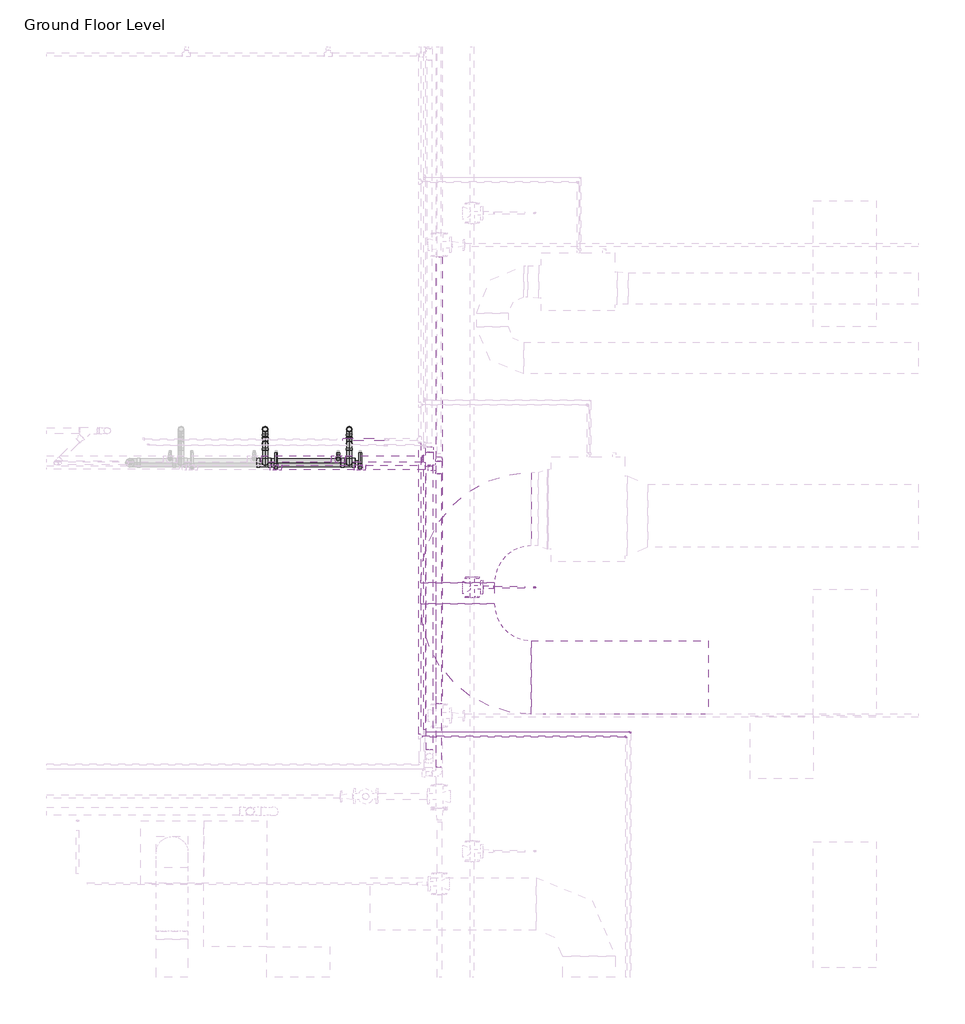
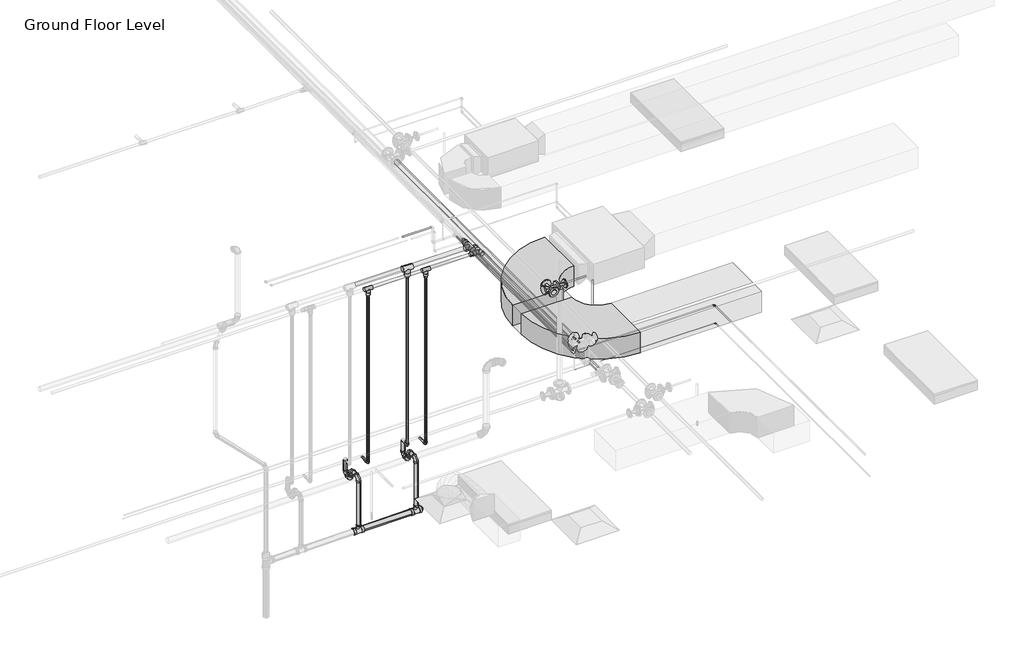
# One storey, part 17 of 74: 31 pipe segments, 29 pipe fittings, 2 duct fittings, 2 duct segments, 1 fire suppression terminal.
"""IFC4 building model written with IfcOpenShell, lengths in millimetres."""

from ifc_helpers import new_model, si_unit, point, frame, frame_2d, origin, place, context, project, spatial, polyline, circle_curve, trimmed, segment, composite_curve, outline, extrude, transform, mapped, element, save
from components import m_rectangular_elbow_radius_1_w_8a62b27e, m_sprinkler_pendent_15_mm_pendent_06fcbd8e, m_bend_pvc_sch_40_dwv_standard_1e7bdcc1, m_bend_pvc_sch_40_dwv_standard_776e50c4, m_bend_pvc_sch_40_dwv_standard_aab78995, m_elbow_generic_standard_a088f956, m_elbow_generic_standard_2a704253, m_plug_pvc_sch_40_dwv_standard_af737ab4, m_reducer_flanged_cs_class_150_standard_d42b2106, m_tee_reducing_sanitary_pvc_sch_40_dwv_standard_21d2848c, m_tee_round_base_flanged_cs_class_150_standard_7e5987a1, standard_b266ab3f, standard_08ff6011, standard_cd25fed3, standard_5079833c, standard_bbae78af, standard_a995ec02, standard_83629b21, standard_9d5ac8af, standard_77f9104c

model = new_model("IFC4")

# Units and contexts
model_context = context("Model", 3, world=origin())
ifc_project = project(units=[si_unit("LENGTHUNIT", "METRE", prefix="MILLI")], contexts=[model_context])

# Site, building, storey
site = spatial("IfcSite", under=ifc_project)
building = spatial("IfcBuilding", under=site)
storey = spatial("IfcBuildingStorey", under=building, Name="Ground Floor Level", Elevation=900.0)

# Duct fittings
placement = place(None, origin())
m_rectangular_elbow_radius_1_w_shape = m_rectangular_elbow_radius_1_w_8a62b27e(model_context)
element("IfcDuctFitting", 1, ObjectType="M_Rectangular Elbow - Radius : 1 W", at=placement, inside=storey, context=model_context, shape_type="MappedRepresentation", body=[
    mapped(m_rectangular_elbow_radius_1_w_shape, transform((5857.7672394, -33301.2726336, 4032.4375), x_axis=(-1.0, 0.0, 0.0), y_axis=(0.0, -1.0, 0.0), z_axis=(0.0, 0.0, 1.0))),
])
element("IfcDuctFitting", 2, ObjectType="M_Rectangular Elbow - Radius : 1 W", at=placement, inside=storey, context=model_context, shape_type="MappedRepresentation", body=[
    mapped(m_rectangular_elbow_radius_1_w_shape, transform((5857.7672394, -34901.2726336, 4032.4375), x_axis=(0.0, -1.0, 0.0), y_axis=(1.0, 0.0, 0.0), z_axis=(0.0, 0.0, 1.0))),
])

# Duct segments
element("IfcDuctSegment", 3, ObjectType="Radius Elbows / Taps", at=placement, inside=storey, context=model_context, shape_type="SweptSolid", body=[
    extrude(outline(polyline([(5507.7672394, -34001.2726336), (6207.7672394, -34001.2726336), (6207.7672394, -34201.2726336), (5507.7672394, -34201.2726336), (5507.7672394, -34001.2726336)])), frame((0.0, 0.0, 3882.4375), z_axis=(0.0, 0.0, 1.0), x_axis=(1.0, 0.0, 0.0)), (0.0, 0.0, 1.0), 300.0),
])
element("IfcDuctSegment", 4, ObjectType="Radius Elbows / Taps", at=placement, inside=storey, context=model_context, shape_type="SweptSolid", body=[
    extrude(outline(polyline([(6557.7672394, -35251.2726336), (6557.7672394, -34551.2726336), (8242.7672394, -34551.2726336), (8242.7672394, -35251.2726336), (6557.7672394, -35251.2726336)])), frame((0.0, 0.0, 3882.4375), z_axis=(0.0, 0.0, 1.0), x_axis=(1.0, 0.0, 0.0)), (0.0, 0.0, 1.0), 300.0),
])

# Fire suppression terminal
m_sprinkler_pendent_15_mm_pendent_shape = m_sprinkler_pendent_15_mm_pendent_06fcbd8e(model_context)
element("IfcFireSuppressionTerminal", 5, ObjectType="M_Sprinkler - Pendent : 15 mm Pendent", at=placement, inside=storey, context=model_context, shape_type="MappedRepresentation", body=[
    mapped(m_sprinkler_pendent_15_mm_pendent_shape, transform((6592.5481019, -34045.051432, 3650.0), x_axis=(1.0, 0.0, 0.0), y_axis=(0.0, 1.0, 0.0), z_axis=(0.0, 0.0, 1.0))),
])

# Pipe fittings
m_bend_pvc_sch_40_dwv_standard_shape = m_bend_pvc_sch_40_dwv_standard_1e7bdcc1(model_context)
element("IfcPipeFitting", 6, ObjectType="M_Bend - PVC - Sch 40 - DWV : Standard", at=placement, inside=storey, context=model_context, shape_type="MappedRepresentation", body=[
    mapped(m_bend_pvc_sch_40_dwv_standard_shape, transform((4826.7846789, -32541.2164355, 1350.0), x_axis=(0.0, 0.0, -1.0), y_axis=(0.0, -1.0, 0.0), z_axis=(-1.0, 0.0, 0.0))),
])
element("IfcPipeFitting", 7, ObjectType="M_Bend - PVC - Sch 40 - DWV : Standard", at=placement, inside=storey, context=model_context, shape_type="MappedRepresentation", body=[
    mapped(m_bend_pvc_sch_40_dwv_standard_shape, transform((4026.7846789, -32541.2164355, 1350.0), x_axis=(0.0, 0.0, -1.0), y_axis=(0.0, -1.0, 0.0), z_axis=(-1.0, 0.0, 0.0))),
])
element("IfcPipeFitting", 8, ObjectType="M_Bend - PVC - Sch 40 - DWV : Standard", at=placement, inside=storey, context=model_context, shape_type="MappedRepresentation", body=[
    mapped(m_bend_pvc_sch_40_dwv_standard_shape, transform((4026.7846789, -32858.7119065, 1488.4250453), x_axis=(0.0, -0.9999500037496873, -0.009999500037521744), y_axis=(0.0, 0.009999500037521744, -0.9999500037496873), z_axis=(1.0, 0.0, 0.0))),
])
m_bend_pvc_sch_40_dwv_standard_2_shape = m_bend_pvc_sch_40_dwv_standard_776e50c4(model_context)
element("IfcPipeFitting", 9, ObjectType="M_Bend - PVC - Sch 40 - DWV : Standard", at=placement, inside=storey, context=model_context, shape_type="MappedRepresentation", body=[
    mapped(m_bend_pvc_sch_40_dwv_standard_2_shape, transform((4826.7846789, -32676.2164355, 1348.45), x_axis=(0.0, -0.9999500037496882, -0.009999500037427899), y_axis=(0.0, -0.009999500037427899, 0.9999500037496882), z_axis=(-1.0, 0.0, 0.0))),
])
element("IfcPipeFitting", 10, ObjectType="M_Bend - PVC - Sch 40 - DWV : Standard", at=placement, inside=storey, context=model_context, shape_type="MappedRepresentation", body=[
    mapped(m_bend_pvc_sch_40_dwv_standard_2_shape, transform((4826.7846789, -32676.2164355, 1490.0), x_axis=(0.0, 0.0, 1.0), y_axis=(0.0, -1.0, 0.0), z_axis=(1.0, 0.0, 0.0))),
])
element("IfcPipeFitting", 11, ObjectType="M_Bend - PVC - Sch 40 - DWV : Standard", at=placement, inside=storey, context=model_context, shape_type="MappedRepresentation", body=[
    mapped(m_bend_pvc_sch_40_dwv_standard_2_shape, transform((4026.7846789, -32676.2164355, 1348.45), x_axis=(0.0, -0.9999500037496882, -0.009999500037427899), y_axis=(0.0, -0.009999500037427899, 0.9999500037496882), z_axis=(-1.0, 0.0, 0.0))),
])
element("IfcPipeFitting", 12, ObjectType="M_Bend - PVC - Sch 40 - DWV : Standard", at=placement, inside=storey, context=model_context, shape_type="MappedRepresentation", body=[
    mapped(m_bend_pvc_sch_40_dwv_standard_2_shape, transform((4026.7846789, -32676.2164355, 1490.0), x_axis=(0.0, 0.0, 1.0), y_axis=(0.0, -1.0, 0.0), z_axis=(1.0, 0.0, 0.0))),
])
m_bend_pvc_sch_40_dwv_standard_3_shape = m_bend_pvc_sch_40_dwv_standard_aab78995(model_context)
element("IfcPipeFitting", 13, ObjectType="M_Bend - PVC - Sch 40 - DWV : Standard", at=placement, inside=storey, context=model_context, shape_type="MappedRepresentation", body=[
    mapped(m_bend_pvc_sch_40_dwv_standard_3_shape, transform((4826.7846789, -32858.7119065, 1488.4250453), x_axis=(0.0, -0.999968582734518, -0.007926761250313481), y_axis=(0.0, 0.007926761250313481, -0.999968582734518), z_axis=(1.0, 0.0, 0.0))),
])
m_elbow_generic_standard_shape = m_elbow_generic_standard_a088f956(model_context)
element("IfcPipeFitting", 14, ObjectType="M_Elbow - Generic : Standard", at=placement, inside=storey, context=model_context, shape_type="MappedRepresentation", body=[
    mapped(m_elbow_generic_standard_shape, transform((7462.8951827, -35463.1206952, 4390.0), x_axis=(0.0, 1.0, 0.0), y_axis=(-1.0, 0.0, 0.0), z_axis=(0.0, 0.0, 1.0))),
])
m_elbow_generic_standard_2_shape = m_elbow_generic_standard_2a704253(model_context)
element("IfcPipeFitting", 15, ObjectType="M_Elbow - Generic : Standard", at=placement, inside=storey, context=model_context, shape_type="MappedRepresentation", body=[
    mapped(m_elbow_generic_standard_2_shape, transform((7503.9904113, -35420.6009836, 4084.9), x_axis=(0.0, 1.0, 0.0), y_axis=(-1.0, 0.0, 0.0), z_axis=(0.0, 0.0, 1.0))),
])
m_plug_pvc_sch_40_dwv_standard_shape = m_plug_pvc_sch_40_dwv_standard_af737ab4(model_context)
element("IfcPipeFitting", 16, ObjectType="M_Plug - PVC - Sch 40 - DWV : Standard", at=placement, inside=storey, context=model_context, shape_type="MappedRepresentation", body=[
    mapped(m_plug_pvc_sch_40_dwv_standard_shape, transform((4886.2674481, -32858.7119065, 723.0545203), x_axis=(0.9999500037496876, 0.0, 0.009999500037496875), y_axis=(0.009999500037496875, 0.0, -0.9999500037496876), z_axis=(0.0, 1.0, 0.0))),
])
m_reducer_flanged_cs_class_150_standard_shape = m_reducer_flanged_cs_class_150_standard_d42b2106(model_context)
element("IfcPipeFitting", 17, ObjectType="M_Reducer - Flanged - CS - Class 150 : Standard", at=placement, inside=storey, context=model_context, shape_type="MappedRepresentation", body=[
    mapped(m_reducer_flanged_cs_class_150_standard_shape, transform((6097.7664057, -34045.051432, 4290.0), x_axis=(1.0, 0.0, 0.0), y_axis=(0.0, 0.0, -1.0), z_axis=(0.0, 1.0, 0.0))),
])
m_tee_reducing_sanitary_pvc_sch_40_dwv_standard_shape = m_tee_reducing_sanitary_pvc_sch_40_dwv_standard_21d2848c(model_context)
element("IfcPipeFitting", 18, ObjectType="M_Tee Reducing Sanitary - PVC - Sch 40 - DWV : Standard", at=placement, inside=storey, context=model_context, shape_type="MappedRepresentation", body=[
    mapped(m_tee_reducing_sanitary_pvc_sch_40_dwv_standard_shape, transform((4826.7846789, -32858.7119065, 722.4596926), x_axis=(0.9999500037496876, 0.0, 0.009999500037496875), y_axis=(0.009999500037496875, 0.0, -0.9999500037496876), z_axis=(0.0, 1.0, 0.0))),
])
element("IfcPipeFitting", 19, ObjectType="M_Tee Reducing Sanitary - PVC - Sch 40 - DWV : Standard", at=placement, inside=storey, context=model_context, shape_type="MappedRepresentation", body=[
    mapped(m_tee_reducing_sanitary_pvc_sch_40_dwv_standard_shape, transform((4026.7846789, -32858.7119065, 714.4596926), x_axis=(0.9999500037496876, 0.0, 0.009999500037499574), y_axis=(0.009999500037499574, 0.0, -0.9999500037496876), z_axis=(0.0, 1.0, 0.0))),
])
m_tee_round_base_flanged_cs_class_150_standard_shape = m_tee_round_base_flanged_cs_class_150_standard_7e5987a1(model_context)
element("IfcPipeFitting", 20, ObjectType="M_Tee Round Base - Flanged - CS - Class 150 : Standard", at=placement, inside=storey, context=model_context, shape_type="MappedRepresentation", body=[
    mapped(m_tee_round_base_flanged_cs_class_150_standard_shape, transform((5997.057812, -34045.051432, 4290.0), x_axis=(0.0, 1.0, 0.0), y_axis=(-1.0, 0.0, 0.0), z_axis=(0.0, 0.0, 1.0))),
])
standard_shape = standard_b266ab3f(model_context)
element("IfcPipeFitting", 21, ObjectType="M_Elbow - CPVC - Sch 40 : Standard", at=placement, inside=storey, context=model_context, shape_type="MappedRepresentation", body=[
    mapped(standard_shape, transform((4722.4697583, -32824.9853451, 1690.0), x_axis=(0.0, 0.0, -1.0), y_axis=(0.0, 1.0, 0.0), z_axis=(1.0, 0.0, 0.0))),
])
element("IfcPipeFitting", 22, ObjectType="M_Elbow - CPVC - Sch 40 : Standard", at=placement, inside=storey, context=model_context, shape_type="MappedRepresentation", body=[
    mapped(standard_shape, transform((4931.0995995, -32905.870708, 1690.0), x_axis=(0.0, -1.0, 0.0), y_axis=(0.0, 0.0, 1.0), z_axis=(-1.0, 0.0, 0.0))),
])
element("IfcPipeFitting", 23, ObjectType="M_Elbow - CPVC - Sch 40 : Standard", at=placement, inside=storey, context=model_context, shape_type="MappedRepresentation", body=[
    mapped(standard_shape, transform((4131.0995995, -32905.870708, 1690.0), x_axis=(0.0, -1.0, 0.0), y_axis=(0.0, 0.0, 1.0), z_axis=(-1.0, 0.0, 0.0))),
])
standard_2_shape = standard_08ff6011(model_context)
element("IfcPipeFitting", 24, ObjectType="M_Tee - CPVC - Sch 40 : Standard", at=placement, inside=storey, context=model_context, shape_type="MappedRepresentation", body=[
    mapped(standard_2_shape, transform((4931.0995995, -32905.870708, 4250.0), x_axis=(1.0, 0.0, 0.0), y_axis=(0.0, 0.0, 1.0), z_axis=(0.0, -1.0, 0.0))),
])
element("IfcPipeFitting", 25, ObjectType="M_Tee - CPVC - Sch 40 : Standard", at=placement, inside=storey, context=model_context, shape_type="MappedRepresentation", body=[
    mapped(standard_2_shape, transform((4131.0995995, -32905.870708, 4250.0), x_axis=(1.0, 0.0, 0.0), y_axis=(0.0, 0.0, 1.0), z_axis=(0.0, -1.0, 0.0))),
])
standard_3_shape = standard_cd25fed3(model_context)
element("IfcPipeFitting", 26, ObjectType="M_Tee - CPVC - Sch 40 : Standard", at=placement, inside=storey, context=model_context, shape_type="MappedRepresentation", body=[
    mapped(standard_3_shape, transform((5589.646628, -32824.9853451, 4300.0), x_axis=(0.0, 1.0, 0.0), y_axis=(1.0, 0.0, 0.0), z_axis=(0.0, 0.0, -1.0))),
])
element("IfcPipeFitting", 27, ObjectType="M_Tee - CPVC - Sch 40 : Standard", at=placement, inside=storey, context=model_context, shape_type="MappedRepresentation", body=[
    mapped(standard_3_shape, transform((4722.4697583, -32824.9853451, 4300.0), x_axis=(-1.0, 0.0, 0.0), y_axis=(0.0, 0.0, 1.0), z_axis=(0.0, 1.0, 0.0))),
])
standard_4_shape = standard_5079833c(model_context)
element("IfcPipeFitting", 28, ObjectType="M_Coupling Reducing - CPVC - Sch 40 : Standard", at=placement, inside=storey, context=model_context, shape_type="MappedRepresentation", body=[
    mapped(standard_4_shape, transform((5589.646628, -32758.3103451, 4300.0), x_axis=(0.0, 1.0, 0.0), y_axis=(-1.0, 0.0, 0.0), z_axis=(0.0, 0.0, 1.0))),
])
standard_5_shape = standard_bbae78af(model_context)
element("IfcPipeFitting", 29, ObjectType="M_Tee - CPVC - Sch 40 : Standard", at=placement, inside=storey, context=model_context, shape_type="MappedRepresentation", body=[
    mapped(standard_5_shape, transform((5680.5575802, -32905.870708, 4250.0), x_axis=(0.0, -1.0, 0.0), y_axis=(1.0, 0.0, 0.0), z_axis=(0.0, 0.0, 1.0))),
])
standard_6_shape = standard_a995ec02(model_context)
element("IfcPipeFitting", 30, ObjectType="M_Coupling Reducing - CPVC - Sch 40 : Standard", at=placement, inside=storey, context=model_context, shape_type="MappedRepresentation", body=[
    mapped(standard_6_shape, transform((5621.8073802, -32905.870708, 4250.0), x_axis=(-1.0, 0.0, 0.0), y_axis=(0.0, -1.0, 0.0), z_axis=(0.0, 0.0, 1.0))),
])
standard_7_shape = standard_83629b21(model_context)
element("IfcPipeFitting", 31, ObjectType="M_Coupling Reducing - CPVC - Sch 40 : Standard", at=placement, inside=storey, context=model_context, shape_type="MappedRepresentation", body=[
    mapped(standard_7_shape, transform((4931.0995995, -32905.870708, 4196.025), x_axis=(0.0, 0.0, -1.0), y_axis=(-1.0, 0.0, 0.0), z_axis=(0.0, 1.0, 0.0))),
])
element("IfcPipeFitting", 32, ObjectType="M_Coupling Reducing - CPVC - Sch 40 : Standard", at=placement, inside=storey, context=model_context, shape_type="MappedRepresentation", body=[
    mapped(standard_7_shape, transform((4131.0995995, -32905.870708, 4196.025), x_axis=(0.0, 0.0, -1.0), y_axis=(-1.0, 0.0, 0.0), z_axis=(0.0, 1.0, 0.0))),
])
standard_8_shape = standard_9d5ac8af(model_context)
element("IfcPipeFitting", 33, ObjectType="M_Coupling Reducing - CPVC - Sch 40 : Standard", at=placement, inside=storey, context=model_context, shape_type="MappedRepresentation", body=[
    mapped(standard_8_shape, transform((4722.4697583, -32824.9853451, 4233.325), x_axis=(0.0, 0.0, -1.0), y_axis=(-1.0, 0.0, 0.0), z_axis=(0.0, 1.0, 0.0))),
])
standard_9_shape = standard_77f9104c(model_context)
element("IfcPipeFitting", 34, ObjectType="M_Coupling Reducing - CPVC - Sch 40 : Standard", at=placement, inside=storey, context=model_context, shape_type="MappedRepresentation", body=[
    mapped(standard_9_shape, transform((5680.5575802, -32847.120508, 4250.0), x_axis=(0.0, 1.0, 0.0), y_axis=(-1.0, 0.0, 0.0), z_axis=(0.0, 0.0, 1.0))),
])

# Pipe segments
element("IfcPipeSegment", 35, ObjectType="CPVC", at=placement, inside=storey, context=model_context, shape_type="SweptSolid", body=[
    extrude(outline(composite_curve([segment(trimmed(circle_curve(frame_2d((4300.0, 5589.646628)), 30.1625), [point((4300.0, 5559.484128))], [point((4269.8375, 5589.646628))], False, "CARTESIAN"), True, "CONTINUOUS"), segment(trimmed(circle_curve(frame_2d((4300.0, 5589.646628)), 30.1625), [point((4269.8375, 5589.646628))], [point((4300.0, 5619.809128))], False, "CARTESIAN"), True, "CONTINUOUS"), segment(trimmed(circle_curve(frame_2d((4300.0, 5589.646628)), 30.1625), [point((4300.0, 5619.809128))], [point((4330.1625, 5589.646628))], False, "CARTESIAN"), True, "CONTINUOUS"), segment(trimmed(circle_curve(frame_2d((4300.0, 5589.646628)), 30.1625), [point((4330.1625, 5589.646628))], [point((4300.0, 5559.484128))], False, "CARTESIAN"), True, "CONTINUOUS")], self_intersect=False)), frame((0.0, -35589.4179431, 0.0), z_axis=(0.0, 1.0, 0.0), x_axis=(0.0, 0.0, 1.0)), (0.0, 0.0, 1.0), 2697.757598),
])
element("IfcPipeSegment", 36, ObjectType="CPVC", at=placement, inside=storey, context=model_context, shape_type="SweptSolid", body=[
    extrude(outline(composite_curve([segment(trimmed(circle_curve(frame_2d((-32824.9853451, 4300.0)), 30.1625), [point((-32855.1478451, 4300.0))], [point((-32824.9853451, 4330.1625))], False, "CARTESIAN"), True, "CONTINUOUS"), segment(trimmed(circle_curve(frame_2d((-32824.9853451, 4300.0)), 30.1625), [point((-32824.9853451, 4330.1625))], [point((-32794.8228451, 4300.0))], False, "CARTESIAN"), True, "CONTINUOUS"), segment(trimmed(circle_curve(frame_2d((-32824.9853451, 4300.0)), 30.1625), [point((-32794.8228451, 4300.0))], [point((-32824.9853451, 4269.8375))], False, "CARTESIAN"), True, "CONTINUOUS"), segment(trimmed(circle_curve(frame_2d((-32824.9853451, 4300.0)), 30.1625), [point((-32824.9853451, 4269.8375))], [point((-32855.1478451, 4300.0))], False, "CARTESIAN"), True, "CONTINUOUS")], self_intersect=False)), frame((4789.1447583, 0.0, 0.0), z_axis=(1.0, 0.0, 0.0), x_axis=(0.0, 1.0, 0.0)), (0.0, 0.0, 1.0), 733.8268697),
])
element("IfcPipeSegment", 37, ObjectType="CPVC", at=placement, inside=storey, context=model_context, shape_type="SweptSolid", body=[
    extrude(outline(composite_curve([segment(trimmed(circle_curve(frame_2d((1690.0, 4722.4697583)), 13.335), [point((1690.0, 4735.8047583))], [point((1703.335, 4722.4697583))], False, "CARTESIAN"), True, "CONTINUOUS"), segment(trimmed(circle_curve(frame_2d((1690.0, 4722.4697583)), 13.335), [point((1703.335, 4722.4697583))], [point((1690.0, 4709.1347583))], False, "CARTESIAN"), True, "CONTINUOUS"), segment(trimmed(circle_curve(frame_2d((1690.0, 4722.4697583)), 13.335), [point((1690.0, 4709.1347583))], [point((1676.665, 4722.4697583))], False, "CARTESIAN"), True, "CONTINUOUS"), segment(trimmed(circle_curve(frame_2d((1690.0, 4722.4697583)), 13.335), [point((1676.665, 4722.4697583))], [point((1690.0, 4735.8047583))], False, "CARTESIAN"), True, "CONTINUOUS")], self_intersect=False)), frame((0.0, -32789.6602951, 0.0), z_axis=(0.0, 1.0, 0.0), x_axis=(0.0, 0.0, 1.0)), (0.0, 0.0, 1.0), 24.8756485),
])
element("IfcPipeSegment", 38, ObjectType="CPVC", at=placement, inside=storey, context=model_context, shape_type="SweptSolid", body=[
    extrude(outline(composite_curve([segment(trimmed(circle_curve(frame_2d((4722.4697583, -32824.9853451)), 13.335), [point((4735.8047583, -32824.9853451))], [point((4722.4697583, -32838.3203451))], False, "CARTESIAN"), True, "CONTINUOUS"), segment(trimmed(circle_curve(frame_2d((4722.4697583, -32824.9853451)), 13.335), [point((4722.4697583, -32838.3203451))], [point((4709.1347583, -32824.9853451))], False, "CARTESIAN"), True, "CONTINUOUS"), segment(trimmed(circle_curve(frame_2d((4722.4697583, -32824.9853451)), 13.335), [point((4709.1347583, -32824.9853451))], [point((4722.4697583, -32811.6503451))], False, "CARTESIAN"), True, "CONTINUOUS"), segment(trimmed(circle_curve(frame_2d((4722.4697583, -32824.9853451)), 13.335), [point((4722.4697583, -32811.6503451))], [point((4735.8047583, -32824.9853451))], False, "CARTESIAN"), True, "CONTINUOUS")], self_intersect=False)), frame((0.0, 0.0, 1725.32505), z_axis=(0.0, 0.0, 1.0), x_axis=(1.0, 0.0, 0.0)), (0.0, 0.0, 1.0), 2431.503075),
])
element("IfcPipeSegment", 39, ObjectType="CPVC", at=placement, inside=storey, context=model_context, shape_type="SweptSolid", body=[
    extrude(outline(composite_curve([segment(trimmed(circle_curve(frame_2d((-32824.9853451, 4300.0)), 30.1625), [point((-32855.1478451, 4300.0))], [point((-32824.9853451, 4330.1625))], False, "CARTESIAN"), True, "CONTINUOUS"), segment(trimmed(circle_curve(frame_2d((-32824.9853451, 4300.0)), 30.1625), [point((-32824.9853451, 4330.1625))], [point((-32794.8228451, 4300.0))], False, "CARTESIAN"), True, "CONTINUOUS"), segment(trimmed(circle_curve(frame_2d((-32824.9853451, 4300.0)), 30.1625), [point((-32794.8228451, 4300.0))], [point((-32824.9853451, 4269.8375))], False, "CARTESIAN"), True, "CONTINUOUS"), segment(trimmed(circle_curve(frame_2d((-32824.9853451, 4300.0)), 30.1625), [point((-32824.9853451, 4269.8375))], [point((-32855.1478451, 4300.0))], False, "CARTESIAN"), True, "CONTINUOUS")], self_intersect=False)), frame((3989.1447583, 0.0, 0.0), z_axis=(1.0, 0.0, 0.0), x_axis=(0.0, 1.0, 0.0)), (0.0, 0.0, 1.0), 666.65),
])
element("IfcPipeSegment", 40, ObjectType="CPVC", at=placement, inside=storey, context=model_context, shape_type="SweptSolid", body=[
    extrude(outline(composite_curve([segment(trimmed(circle_curve(frame_2d((4250.0, 5680.5575802)), 24.13), [point((4250.0, 5704.6875802))], [point((4274.13, 5680.5575802))], False, "CARTESIAN"), True, "CONTINUOUS"), segment(trimmed(circle_curve(frame_2d((4250.0, 5680.5575802)), 24.13), [point((4274.13, 5680.5575802))], [point((4250.0, 5656.4275802))], False, "CARTESIAN"), True, "CONTINUOUS"), segment(trimmed(circle_curve(frame_2d((4250.0, 5680.5575802)), 24.13), [point((4250.0, 5656.4275802))], [point((4225.87, 5680.5575802))], False, "CARTESIAN"), True, "CONTINUOUS"), segment(trimmed(circle_curve(frame_2d((4250.0, 5680.5575802)), 24.13), [point((4225.87, 5680.5575802))], [point((4250.0, 5704.6875802))], False, "CARTESIAN"), True, "CONTINUOUS")], self_intersect=False)), frame((0.0, -35756.740802, 0.0), z_axis=(0.0, 1.0, 0.0), x_axis=(0.0, 0.0, 1.0)), (0.0, 0.0, 1.0), 2792.119894),
])
element("IfcPipeSegment", 41, ObjectType="CPVC", at=placement, inside=storey, context=model_context, shape_type="SweptSolid", body=[
    extrude(outline(composite_curve([segment(trimmed(circle_curve(frame_2d((1690.0, 4931.0995995)), 13.335), [point((1690.0, 4917.7645995))], [point((1676.665, 4931.0995995))], False, "CARTESIAN"), True, "CONTINUOUS"), segment(trimmed(circle_curve(frame_2d((1690.0, 4931.0995995)), 13.335), [point((1676.665, 4931.0995995))], [point((1690.0, 4944.4345995))], False, "CARTESIAN"), True, "CONTINUOUS"), segment(trimmed(circle_curve(frame_2d((1690.0, 4931.0995995)), 13.335), [point((1690.0, 4944.4345995))], [point((1703.335, 4931.0995995))], False, "CARTESIAN"), True, "CONTINUOUS"), segment(trimmed(circle_curve(frame_2d((1690.0, 4931.0995995)), 13.335), [point((1703.335, 4931.0995995))], [point((1690.0, 4917.7645995))], False, "CARTESIAN"), True, "CONTINUOUS")], self_intersect=False)), frame((0.0, -32870.545658, 0.0), z_axis=(0.0, 1.0, 0.0), x_axis=(0.0, 0.0, 1.0)), (0.0, 0.0, 1.0), 105.7610114),
])
element("IfcPipeSegment", 42, ObjectType="CPVC", at=placement, inside=storey, context=model_context, shape_type="SweptSolid", body=[
    extrude(outline(composite_curve([segment(trimmed(circle_curve(frame_2d((4931.0995995, -32905.870708)), 13.335), [point((4917.7645995, -32905.870708))], [point((4931.0995995, -32892.535708))], False, "CARTESIAN"), True, "CONTINUOUS"), segment(trimmed(circle_curve(frame_2d((4931.0995995, -32905.870708)), 13.335), [point((4931.0995995, -32892.535708))], [point((4944.4345995, -32905.870708))], False, "CARTESIAN"), True, "CONTINUOUS"), segment(trimmed(circle_curve(frame_2d((4931.0995995, -32905.870708)), 13.335), [point((4944.4345995, -32905.870708))], [point((4931.0995995, -32919.205708))], False, "CARTESIAN"), True, "CONTINUOUS"), segment(trimmed(circle_curve(frame_2d((4931.0995995, -32905.870708)), 13.335), [point((4931.0995995, -32919.205708))], [point((4917.7645995, -32905.870708))], False, "CARTESIAN"), True, "CONTINUOUS")], self_intersect=False)), frame((0.0, 0.0, 1725.32505), z_axis=(0.0, 0.0, 1.0), x_axis=(1.0, 0.0, 0.0)), (0.0, 0.0, 1.0), 2407.883075),
])
element("IfcPipeSegment", 43, ObjectType="CPVC", at=placement, inside=storey, context=model_context, shape_type="SweptSolid", body=[
    extrude(outline(composite_curve([segment(trimmed(circle_curve(frame_2d((-32905.870708, 4250.0)), 21.082), [point((-32884.788708, 4250.0))], [point((-32905.870708, 4228.918))], False, "CARTESIAN"), True, "CONTINUOUS"), segment(trimmed(circle_curve(frame_2d((-32905.870708, 4250.0)), 21.082), [point((-32905.870708, 4228.918))], [point((-32926.952708, 4250.0))], False, "CARTESIAN"), True, "CONTINUOUS"), segment(trimmed(circle_curve(frame_2d((-32905.870708, 4250.0)), 21.082), [point((-32926.952708, 4250.0))], [point((-32905.870708, 4271.082))], False, "CARTESIAN"), True, "CONTINUOUS"), segment(trimmed(circle_curve(frame_2d((-32905.870708, 4250.0)), 21.082), [point((-32905.870708, 4271.082))], [point((-32884.788708, 4250.0))], False, "CARTESIAN"), True, "CONTINUOUS")], self_intersect=False)), frame((4985.0745995, 0.0, 0.0), z_axis=(1.0, 0.0, 0.0), x_axis=(0.0, 1.0, 0.0)), (0.0, 0.0, 1.0), 558.9940307),
])
element("IfcPipeSegment", 44, ObjectType="CPVC", at=placement, inside=storey, context=model_context, shape_type="SweptSolid", body=[
    extrude(outline(composite_curve([segment(trimmed(circle_curve(frame_2d((1690.0, 4131.0995995)), 13.335), [point((1690.0, 4117.7645995))], [point((1676.665, 4131.0995995))], False, "CARTESIAN"), True, "CONTINUOUS"), segment(trimmed(circle_curve(frame_2d((1690.0, 4131.0995995)), 13.335), [point((1676.665, 4131.0995995))], [point((1690.0, 4144.4345995))], False, "CARTESIAN"), True, "CONTINUOUS"), segment(trimmed(circle_curve(frame_2d((1690.0, 4131.0995995)), 13.335), [point((1690.0, 4144.4345995))], [point((1703.335, 4131.0995995))], False, "CARTESIAN"), True, "CONTINUOUS"), segment(trimmed(circle_curve(frame_2d((1690.0, 4131.0995995)), 13.335), [point((1703.335, 4131.0995995))], [point((1690.0, 4117.7645995))], False, "CARTESIAN"), True, "CONTINUOUS")], self_intersect=False)), frame((0.0, -32870.545658, 0.0), z_axis=(0.0, 1.0, 0.0), x_axis=(0.0, 0.0, 1.0)), (0.0, 0.0, 1.0), 105.7610114),
])
element("IfcPipeSegment", 45, ObjectType="CPVC", at=placement, inside=storey, context=model_context, shape_type="SweptSolid", body=[
    extrude(outline(composite_curve([segment(trimmed(circle_curve(frame_2d((4131.0995995, -32905.870708)), 13.335), [point((4117.7645995, -32905.870708))], [point((4131.0995995, -32892.535708))], False, "CARTESIAN"), True, "CONTINUOUS"), segment(trimmed(circle_curve(frame_2d((4131.0995995, -32905.870708)), 13.335), [point((4131.0995995, -32892.535708))], [point((4144.4345995, -32905.870708))], False, "CARTESIAN"), True, "CONTINUOUS"), segment(trimmed(circle_curve(frame_2d((4131.0995995, -32905.870708)), 13.335), [point((4144.4345995, -32905.870708))], [point((4131.0995995, -32919.205708))], False, "CARTESIAN"), True, "CONTINUOUS"), segment(trimmed(circle_curve(frame_2d((4131.0995995, -32905.870708)), 13.335), [point((4131.0995995, -32919.205708))], [point((4117.7645995, -32905.870708))], False, "CARTESIAN"), True, "CONTINUOUS")], self_intersect=False)), frame((0.0, 0.0, 1725.32505), z_axis=(0.0, 0.0, 1.0), x_axis=(1.0, 0.0, 0.0)), (0.0, 0.0, 1.0), 2407.883075),
])
element("IfcPipeSegment", 46, ObjectType="CPVC", at=placement, inside=storey, context=model_context, shape_type="SweptSolid", body=[
    extrude(outline(composite_curve([segment(trimmed(circle_curve(frame_2d((-32905.870708, 4250.0)), 21.082), [point((-32884.788708, 4250.0))], [point((-32905.870708, 4228.918))], False, "CARTESIAN"), True, "CONTINUOUS"), segment(trimmed(circle_curve(frame_2d((-32905.870708, 4250.0)), 21.082), [point((-32905.870708, 4228.918))], [point((-32926.952708, 4250.0))], False, "CARTESIAN"), True, "CONTINUOUS"), segment(trimmed(circle_curve(frame_2d((-32905.870708, 4250.0)), 21.082), [point((-32926.952708, 4250.0))], [point((-32905.870708, 4271.082))], False, "CARTESIAN"), True, "CONTINUOUS"), segment(trimmed(circle_curve(frame_2d((-32905.870708, 4250.0)), 21.082), [point((-32905.870708, 4271.082))], [point((-32884.788708, 4250.0))], False, "CARTESIAN"), True, "CONTINUOUS")], self_intersect=False)), frame((4185.0745995, 0.0, 0.0), z_axis=(1.0, 0.0, 0.0), x_axis=(0.0, 1.0, 0.0)), (0.0, 0.0, 1.0), 692.05),
])
element("IfcPipeSegment", 47, ObjectType="Copper", at=placement, inside=storey, context=model_context, shape_type="SweptSolid", body=[
    extrude(outline(composite_curve([segment(trimmed(circle_curve(frame_2d((-35463.1206952, 4390.0)), 6.5), [point((-35469.6206952, 4390.0))], [point((-35463.1206952, 4396.5))], False, "CARTESIAN"), True, "CONTINUOUS"), segment(trimmed(circle_curve(frame_2d((-35463.1206952, 4390.0)), 6.5), [point((-35463.1206952, 4396.5))], [point((-35456.6206952, 4390.0))], False, "CARTESIAN"), True, "CONTINUOUS"), segment(trimmed(circle_curve(frame_2d((-35463.1206952, 4390.0)), 6.5), [point((-35456.6206952, 4390.0))], [point((-35463.1206952, 4383.5))], False, "CARTESIAN"), True, "CONTINUOUS"), segment(trimmed(circle_curve(frame_2d((-35463.1206952, 4390.0)), 6.5), [point((-35463.1206952, 4383.5))], [point((-35469.6206952, 4390.0))], False, "CARTESIAN"), True, "CONTINUOUS")], self_intersect=False)), frame((5524.8826827, 0.0, 0.0), z_axis=(1.0, 0.0, 0.0), x_axis=(0.0, 1.0, 0.0)), (0.0, 0.0, 1.0), 1923.725),
])
element("IfcPipeSegment", 48, ObjectType="Copper", at=placement, inside=storey, context=model_context, shape_type="SweptSolid", body=[
    extrude(outline(composite_curve([segment(trimmed(circle_curve(frame_2d((4390.0, 5497.8951827)), 8.1), [point((4390.0, 5489.7951827))], [point((4381.9, 5497.8951827))], False, "CARTESIAN"), True, "CONTINUOUS"), segment(trimmed(circle_curve(frame_2d((4390.0, 5497.8951827)), 8.1), [point((4381.9, 5497.8951827))], [point((4390.0, 5505.9951827))], False, "CARTESIAN"), True, "CONTINUOUS"), segment(trimmed(circle_curve(frame_2d((4390.0, 5497.8951827)), 8.1), [point((4390.0, 5505.9951827))], [point((4398.1, 5497.8951827))], False, "CARTESIAN"), True, "CONTINUOUS"), segment(trimmed(circle_curve(frame_2d((4390.0, 5497.8951827)), 8.1), [point((4398.1, 5497.8951827))], [point((4390.0, 5489.7951827))], False, "CARTESIAN"), True, "CONTINUOUS")], self_intersect=False)), frame((0.0, -35440.8956952, 0.0), z_axis=(0.0, 1.0, 0.0), x_axis=(0.0, 0.0, 1.0)), (0.0, 0.0, 1.0), 2770.4294771),
])
element("IfcPipeSegment", 49, ObjectType="Copper", at=placement, inside=storey, context=model_context, shape_type="SweptSolid", body=[
    extrude(outline(composite_curve([segment(trimmed(circle_curve(frame_2d((4377.5, 5543.9904113)), 6.5), [point((4377.5, 5537.4904113))], [point((4371.0, 5543.9904113))], False, "CARTESIAN"), True, "CONTINUOUS"), segment(trimmed(circle_curve(frame_2d((4377.5, 5543.9904113)), 6.5), [point((4371.0, 5543.9904113))], [point((4377.5, 5550.4904113))], False, "CARTESIAN"), True, "CONTINUOUS"), segment(trimmed(circle_curve(frame_2d((4377.5, 5543.9904113)), 6.5), [point((4377.5, 5550.4904113))], [point((4384.0, 5543.9904113))], False, "CARTESIAN"), True, "CONTINUOUS"), segment(trimmed(circle_curve(frame_2d((4377.5, 5543.9904113)), 6.5), [point((4384.0, 5543.9904113))], [point((4377.5, 5537.4904113))], False, "CARTESIAN"), True, "CONTINUOUS")], self_intersect=False)), frame((0.0, -35399.9634836, 0.0), z_axis=(0.0, 1.0, 0.0), x_axis=(0.0, 0.0, 1.0)), (0.0, 0.0, 1.0), 2681.4232314),
])
element("IfcPipeSegment", 50, ObjectType="Copper", at=placement, inside=storey, context=model_context, shape_type="SweptSolid", body=[
    extrude(outline(composite_curve([segment(trimmed(circle_curve(frame_2d((-32638.716218, 4621.4908765)), 11.5), [point((-32650.216218, 4621.4908765))], [point((-32638.716218, 4632.9908765))], False, "CARTESIAN"), True, "CONTINUOUS"), segment(trimmed(circle_curve(frame_2d((-32638.716218, 4621.4908765)), 11.5), [point((-32638.716218, 4632.9908765))], [point((-32627.216218, 4621.4908765))], False, "CARTESIAN"), True, "CONTINUOUS"), segment(trimmed(circle_curve(frame_2d((-32638.716218, 4621.4908765)), 11.5), [point((-32627.216218, 4621.4908765))], [point((-32638.716218, 4609.9908765))], False, "CARTESIAN"), True, "CONTINUOUS"), segment(trimmed(circle_curve(frame_2d((-32638.716218, 4621.4908765)), 11.5), [point((-32638.716218, 4609.9908765))], [point((-32650.216218, 4621.4908765))], False, "CARTESIAN"), True, "CONTINUOUS")], self_intersect=False)), frame((4766.9205946, 0.0, 0.0), z_axis=(1.0, 0.0, 0.0), x_axis=(0.0, 1.0, 0.0)), (0.0, 0.0, 1.0), 397.4732883),
])
element("IfcPipeSegment", 51, ObjectType="Copper", at=placement, inside=storey, context=model_context, shape_type="SweptSolid", body=[
    extrude(outline(composite_curve([segment(trimmed(circle_curve(frame_2d((-35420.6009836, 4084.9)), 3.35), [point((-35423.9509836, 4084.9))], [point((-35420.6009836, 4088.25))], False, "CARTESIAN"), True, "CONTINUOUS"), segment(trimmed(circle_curve(frame_2d((-35420.6009836, 4084.9)), 3.35), [point((-35420.6009836, 4088.25))], [point((-35417.2509836, 4084.9))], False, "CARTESIAN"), True, "CONTINUOUS"), segment(trimmed(circle_curve(frame_2d((-35420.6009836, 4084.9)), 3.35), [point((-35417.2509836, 4084.9))], [point((-35420.6009836, 4081.55))], False, "CARTESIAN"), True, "CONTINUOUS"), segment(trimmed(circle_curve(frame_2d((-35420.6009836, 4084.9)), 3.35), [point((-35420.6009836, 4081.55))], [point((-35423.9509836, 4084.9))], False, "CARTESIAN"), True, "CONTINUOUS")], self_intersect=False)), frame((5555.1279113, 0.0, 0.0), z_axis=(1.0, 0.0, 0.0), x_axis=(0.0, 1.0, 0.0)), (0.0, 0.0, 1.0), 1937.725),
])
element("IfcPipeSegment", 52, ObjectType="PVC - DWV", at=placement, inside=storey, context=model_context, shape_type="SweptSolid", body=[
    extrude(outline(composite_curve([segment(trimmed(circle_curve(frame_2d((4826.7846789, -32541.2164355)), 24.13), [point((4850.9146789, -32541.2164355))], [point((4826.7846789, -32565.3464355))], False, "CARTESIAN"), True, "CONTINUOUS"), segment(trimmed(circle_curve(frame_2d((4826.7846789, -32541.2164355)), 24.13), [point((4826.7846789, -32565.3464355))], [point((4802.6546789, -32541.2164355))], False, "CARTESIAN"), True, "CONTINUOUS"), segment(trimmed(circle_curve(frame_2d((4826.7846789, -32541.2164355)), 24.13), [point((4802.6546789, -32541.2164355))], [point((4826.7846789, -32517.0864355))], False, "CARTESIAN"), True, "CONTINUOUS"), segment(trimmed(circle_curve(frame_2d((4826.7846789, -32541.2164355)), 24.13), [point((4826.7846789, -32517.0864355))], [point((4850.9146789, -32541.2164355))], False, "CARTESIAN"), True, "CONTINUOUS")], self_intersect=False)), frame((0.0, 0.0, 1411.8998), z_axis=(0.0, 0.0, 1.0), x_axis=(1.0, 0.0, 0.0)), (0.0, 0.0, 1.0), 138.1002),
])
element("IfcPipeSegment", 53, ObjectType="PVC - DWV", at=placement, inside=storey, context=model_context, shape_type="SweptSolid", body=[
    extrude(outline(composite_curve([segment(trimmed(circle_curve(frame_2d((0.0, -24.13)), 24.13), [point((-24.13, -24.13))], [point((0.0, 0.0))], False, "CARTESIAN"), True, "CONTINUOUS"), segment(trimmed(circle_curve(frame_2d((0.0, -24.13)), 24.13), [point((0.0, 0.0))], [point((24.13, -24.13))], False, "CARTESIAN"), True, "CONTINUOUS"), segment(trimmed(circle_curve(frame_2d((0.0, -24.13)), 24.13), [point((24.13, -24.13))], [point((0.0, -48.2599999))], False, "CARTESIAN"), True, "CONTINUOUS"), segment(trimmed(circle_curve(frame_2d((0.0, -24.13)), 24.13), [point((0.0, -48.2599999))], [point((-24.13, -24.13))], False, "CARTESIAN"), True, "CONTINUOUS")], self_intersect=False)), frame((4826.7846789, -32614.0784423, 1324.9401735), z_axis=(0.0, 0.9999500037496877, 0.009999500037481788), x_axis=(1.0, 0.0, 0.0)), (0.0, 0.0, 1.0), 11.2091497),
])
element("IfcPipeSegment", 54, ObjectType="PVC - DWV", at=placement, inside=storey, context=model_context, shape_type="SweptSolid", body=[
    extrude(outline(composite_curve([segment(trimmed(circle_curve(frame_2d((4826.7846789, -32676.2164355)), 24.13), [point((4802.6546789, -32676.2164355))], [point((4826.7846789, -32652.0864355))], False, "CARTESIAN"), True, "CONTINUOUS"), segment(trimmed(circle_curve(frame_2d((4826.7846789, -32676.2164355)), 24.13), [point((4826.7846789, -32652.0864355))], [point((4850.9146789, -32676.2164355))], False, "CARTESIAN"), True, "CONTINUOUS"), segment(trimmed(circle_curve(frame_2d((4826.7846789, -32676.2164355)), 24.13), [point((4850.9146789, -32676.2164355))], [point((4826.7846789, -32700.3464355))], False, "CARTESIAN"), True, "CONTINUOUS"), segment(trimmed(circle_curve(frame_2d((4826.7846789, -32676.2164355)), 24.13), [point((4826.7846789, -32700.3464355))], [point((4802.6546789, -32676.2164355))], False, "CARTESIAN"), True, "CONTINUOUS")], self_intersect=False)), frame((0.0, 0.0, 1410.3498), z_axis=(0.0, 0.0, 1.0), x_axis=(1.0, 0.0, 0.0)), (0.0, 0.0, 1.0), 17.7504),
])
element("IfcPipeSegment", 55, ObjectType="PVC - DWV", at=placement, inside=storey, context=model_context, shape_type="SweptSolid", body=[
    extrude(outline(composite_curve([segment(trimmed(circle_curve(frame_2d((0.0, -24.13)), 24.13), [point((-24.13, -24.13))], [point((0.0, 0.0))], False, "CARTESIAN"), True, "CONTINUOUS"), segment(trimmed(circle_curve(frame_2d((0.0, -24.13)), 24.13), [point((0.0, 0.0))], [point((24.13, -24.13))], False, "CARTESIAN"), True, "CONTINUOUS"), segment(trimmed(circle_curve(frame_2d((0.0, -24.13)), 24.13), [point((24.13, -24.13))], [point((0.0, -48.26))], False, "CARTESIAN"), True, "CONTINUOUS"), segment(trimmed(circle_curve(frame_2d((0.0, -24.13)), 24.13), [point((0.0, -48.26))], [point((-24.13, -24.13))], False, "CARTESIAN"), True, "CONTINUOUS")], self_intersect=False)), frame((4826.7846789, -32796.6227785, 1464.7864683), z_axis=(0.0, 0.9999685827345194, 0.007926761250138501), x_axis=(1.0, 0.0, 0.0)), (0.0, 0.0, 1.0), 58.7027548),
])
element("IfcPipeSegment", 56, ObjectType="PVC - DWV", at=placement, inside=storey, context=model_context, shape_type="SweptSolid", body=[
    extrude(outline(composite_curve([segment(trimmed(circle_curve(frame_2d((4826.7846789, -32858.7119065)), 24.13), [point((4802.6546789, -32858.7119065))], [point((4826.7846789, -32834.5819065))], False, "CARTESIAN"), True, "CONTINUOUS"), segment(trimmed(circle_curve(frame_2d((4826.7846789, -32858.7119065)), 24.13), [point((4826.7846789, -32834.5819065))], [point((4850.9146789, -32858.7119065))], False, "CARTESIAN"), True, "CONTINUOUS"), segment(trimmed(circle_curve(frame_2d((4826.7846789, -32858.7119065)), 24.13), [point((4850.9146789, -32858.7119065))], [point((4826.7846789, -32882.8419065))], False, "CARTESIAN"), True, "CONTINUOUS"), segment(trimmed(circle_curve(frame_2d((4826.7846789, -32858.7119065)), 24.13), [point((4826.7846789, -32882.8419065))], [point((4802.6546789, -32858.7119065))], False, "CARTESIAN"), True, "CONTINUOUS")], self_intersect=False)), frame((0.0, 0.0, 803.3071488), z_axis=(0.0, 0.0, 1.0), x_axis=(1.0, 0.0, 0.0)), (0.0, 0.0, 1.0), 623.2180965),
])
element("IfcPipeSegment", 57, ObjectType="PVC - DWV", at=placement, inside=storey, context=model_context, shape_type="SweptSolid", body=[
    extrude(outline(composite_curve([segment(trimmed(circle_curve(frame_2d((4026.7846789, -32541.2164355)), 24.13), [point((4050.9146789, -32541.2164355))], [point((4026.7846789, -32565.3464355))], False, "CARTESIAN"), True, "CONTINUOUS"), segment(trimmed(circle_curve(frame_2d((4026.7846789, -32541.2164355)), 24.13), [point((4026.7846789, -32565.3464355))], [point((4002.6546789, -32541.2164355))], False, "CARTESIAN"), True, "CONTINUOUS"), segment(trimmed(circle_curve(frame_2d((4026.7846789, -32541.2164355)), 24.13), [point((4002.6546789, -32541.2164355))], [point((4026.7846789, -32517.0864355))], False, "CARTESIAN"), True, "CONTINUOUS"), segment(trimmed(circle_curve(frame_2d((4026.7846789, -32541.2164355)), 24.13), [point((4026.7846789, -32517.0864355))], [point((4050.9146789, -32541.2164355))], False, "CARTESIAN"), True, "CONTINUOUS")], self_intersect=False)), frame((0.0, 0.0, 1411.8998), z_axis=(0.0, 0.0, 1.0), x_axis=(1.0, 0.0, 0.0)), (0.0, 0.0, 1.0), 138.1002),
])
element("IfcPipeSegment", 58, ObjectType="PVC - DWV", at=placement, inside=storey, context=model_context, shape_type="SweptSolid", body=[
    extrude(outline(composite_curve([segment(trimmed(circle_curve(frame_2d((0.0, -24.13)), 24.13), [point((-24.13, -24.13))], [point((0.0, 0.0))], False, "CARTESIAN"), True, "CONTINUOUS"), segment(trimmed(circle_curve(frame_2d((0.0, -24.13)), 24.13), [point((0.0, 0.0))], [point((24.13, -24.13))], False, "CARTESIAN"), True, "CONTINUOUS"), segment(trimmed(circle_curve(frame_2d((0.0, -24.13)), 24.13), [point((24.13, -24.13))], [point((0.0, -48.2599999))], False, "CARTESIAN"), True, "CONTINUOUS"), segment(trimmed(circle_curve(frame_2d((0.0, -24.13)), 24.13), [point((0.0, -48.2599999))], [point((-24.13, -24.13))], False, "CARTESIAN"), True, "CONTINUOUS")], self_intersect=False)), frame((4026.7846789, -32614.0804421, 1325.1401535), z_axis=(0.0, 0.9999500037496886, 0.009999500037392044), x_axis=(1.0, 0.0, 0.0)), (0.0, 0.0, 1.0), 11.2091497),
])
element("IfcPipeSegment", 59, ObjectType="PVC - DWV", at=placement, inside=storey, context=model_context, shape_type="SweptSolid", body=[
    extrude(outline(composite_curve([segment(trimmed(circle_curve(frame_2d((4026.7846789, -32676.2164355)), 24.13), [point((4002.6546789, -32676.2164355))], [point((4026.7846789, -32652.0864355))], False, "CARTESIAN"), True, "CONTINUOUS"), segment(trimmed(circle_curve(frame_2d((4026.7846789, -32676.2164355)), 24.13), [point((4026.7846789, -32652.0864355))], [point((4050.9146789, -32676.2164355))], False, "CARTESIAN"), True, "CONTINUOUS"), segment(trimmed(circle_curve(frame_2d((4026.7846789, -32676.2164355)), 24.13), [point((4050.9146789, -32676.2164355))], [point((4026.7846789, -32700.3464355))], False, "CARTESIAN"), True, "CONTINUOUS"), segment(trimmed(circle_curve(frame_2d((4026.7846789, -32676.2164355)), 24.13), [point((4026.7846789, -32700.3464355))], [point((4002.6546789, -32676.2164355))], False, "CARTESIAN"), True, "CONTINUOUS")], self_intersect=False)), frame((0.0, 0.0, 1410.3498), z_axis=(0.0, 0.0, 1.0), x_axis=(1.0, 0.0, 0.0)), (0.0, 0.0, 1.0), 17.7504),
])
element("IfcPipeSegment", 60, ObjectType="PVC - DWV", at=placement, inside=storey, context=model_context, shape_type="SweptSolid", body=[
    extrude(outline(composite_curve([segment(trimmed(circle_curve(frame_2d((0.0, -24.1299999)), 24.13), [point((-24.13, -24.1299999))], [point((0.0, 0.0))], False, "CARTESIAN"), True, "CONTINUOUS"), segment(trimmed(circle_curve(frame_2d((0.0, -24.1299999)), 24.13), [point((0.0, 0.0))], [point((24.13, -24.1299999))], False, "CARTESIAN"), True, "CONTINUOUS"), segment(trimmed(circle_curve(frame_2d((0.0, -24.1299999)), 24.13), [point((24.13, -24.1299999))], [point((0.0, -48.2599999))], False, "CARTESIAN"), True, "CONTINUOUS"), segment(trimmed(circle_curve(frame_2d((0.0, -24.1299999)), 24.13), [point((0.0, -48.2599999))], [point((-24.13, -24.1299999))], False, "CARTESIAN"), True, "CONTINUOUS")], self_intersect=False)), frame((4026.7846789, -32796.5739134, 1464.9152188), z_axis=(0.0, 0.9999500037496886, 0.009999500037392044), x_axis=(1.0, 0.0, 0.0)), (0.0, 0.0, 1.0), 58.7024958),
])
element("IfcPipeSegment", 61, ObjectType="PVC - DWV", at=placement, inside=storey, context=model_context, shape_type="SweptSolid", body=[
    extrude(outline(composite_curve([segment(trimmed(circle_curve(frame_2d((4026.7846789, -32858.7119065)), 24.13), [point((4002.6546789, -32858.7119065))], [point((4026.7846789, -32834.5819065))], False, "CARTESIAN"), True, "CONTINUOUS"), segment(trimmed(circle_curve(frame_2d((4026.7846789, -32858.7119065)), 24.13), [point((4026.7846789, -32834.5819065))], [point((4050.9146789, -32858.7119065))], False, "CARTESIAN"), True, "CONTINUOUS"), segment(trimmed(circle_curve(frame_2d((4026.7846789, -32858.7119065)), 24.13), [point((4050.9146789, -32858.7119065))], [point((4026.7846789, -32882.8419065))], False, "CARTESIAN"), True, "CONTINUOUS"), segment(trimmed(circle_curve(frame_2d((4026.7846789, -32858.7119065)), 24.13), [point((4026.7846789, -32882.8419065))], [point((4002.6546789, -32858.7119065))], False, "CARTESIAN"), True, "CONTINUOUS")], self_intersect=False)), frame((0.0, 0.0, 795.3071488), z_axis=(0.0, 0.0, 1.0), x_axis=(1.0, 0.0, 0.0)), (0.0, 0.0, 1.0), 631.2180965),
])
element("IfcPipeSegment", 62, ObjectType="PVC - DWV", at=placement, inside=storey, context=model_context, shape_type="SweptSolid", body=[
    extrude(outline(composite_curve([segment(trimmed(circle_curve(frame_2d((0.0, -36.5125)), 36.5125), [point((0.0, 0.0))], [point((36.5125, -36.5125))], False, "CARTESIAN"), True, "CONTINUOUS"), segment(trimmed(circle_curve(frame_2d((0.0, -36.5125)), 36.5125), [point((36.5125, -36.5125))], [point((0.0, -73.025))], False, "CARTESIAN"), True, "CONTINUOUS"), segment(trimmed(circle_curve(frame_2d((0.0, -36.5125)), 36.5125), [point((0.0, -73.025))], [point((-36.5125, -36.5125))], False, "CARTESIAN"), True, "CONTINUOUS"), segment(trimmed(circle_curve(frame_2d((0.0, -36.5125)), 36.5125), [point((-36.5125, -36.5125))], [point((0.0, 0.0))], False, "CARTESIAN"), True, "CONTINUOUS")], self_intersect=False)), frame((4086.2674481, -32822.1994065, 715.0545203), z_axis=(0.9999500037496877, 0.0, 0.00999950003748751), x_axis=(0.00999950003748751, 0.0, -0.9999500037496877)), (0.0, 0.0, 1.0), 661.4911369),
])
element("IfcPipeSegment", 63, ObjectType="Steel flanged", at=placement, inside=storey, context=model_context, shape_type="SweptSolid", body=[
    extrude(outline(composite_curve([segment(trimmed(circle_curve(frame_2d((6592.5481019, -34045.051432)), 10.668), [point((6581.8801019, -34045.051432))], [point((6592.5481019, -34034.383432))], False, "CARTESIAN"), True, "CONTINUOUS"), segment(trimmed(circle_curve(frame_2d((6592.5481019, -34045.051432)), 10.668), [point((6592.5481019, -34034.383432))], [point((6603.2161019, -34045.051432))], False, "CARTESIAN"), True, "CONTINUOUS"), segment(trimmed(circle_curve(frame_2d((6592.5481019, -34045.051432)), 10.668), [point((6603.2161019, -34045.051432))], [point((6592.5481019, -34055.719432))], False, "CARTESIAN"), True, "CONTINUOUS"), segment(trimmed(circle_curve(frame_2d((6592.5481019, -34045.051432)), 10.668), [point((6592.5481019, -34055.719432))], [point((6581.8801019, -34045.051432))], False, "CARTESIAN"), True, "CONTINUOUS")], self_intersect=False)), frame((0.0, 0.0, 3650.0), z_axis=(0.0, 0.0, 1.0), x_axis=(1.0, 0.0, 0.0)), (0.0, 0.0, 1.0), 546.9914062),
])
element("IfcPipeSegment", 64, ObjectType="Steel flanged", at=placement, inside=storey, context=model_context, shape_type="SweptSolid", body=[
    extrude(outline(composite_curve([segment(trimmed(circle_curve(frame_2d((-34045.051432, 4290.0)), 10.668), [point((-34034.383432, 4290.0))], [point((-34045.051432, 4279.332))], False, "CARTESIAN"), True, "CONTINUOUS"), segment(trimmed(circle_curve(frame_2d((-34045.051432, 4290.0)), 10.668), [point((-34045.051432, 4279.332))], [point((-34055.719432, 4290.0))], False, "CARTESIAN"), True, "CONTINUOUS"), segment(trimmed(circle_curve(frame_2d((-34045.051432, 4290.0)), 10.668), [point((-34055.719432, 4290.0))], [point((-34045.051432, 4300.668))], False, "CARTESIAN"), True, "CONTINUOUS"), segment(trimmed(circle_curve(frame_2d((-34045.051432, 4290.0)), 10.668), [point((-34045.051432, 4300.668))], [point((-34034.383432, 4290.0))], False, "CARTESIAN"), True, "CONTINUOUS")], self_intersect=False)), frame((6211.7664057, 0.0, 0.0), z_axis=(1.0, 0.0, 0.0), x_axis=(0.0, 1.0, 0.0)), (0.0, 0.0, 1.0), 287.7731025),
])
element("IfcPipeSegment", 65, ObjectType="Steel flanged", at=placement, inside=storey, context=model_context, shape_type="SweptSolid", body=[
    extrude(outline(composite_curve([segment(trimmed(circle_curve(frame_2d((4347.5, 5684.6174894)), 30.1625), [point((4347.5, 5714.7799894))], [point((4377.6625, 5684.6174894))], False, "CARTESIAN"), True, "CONTINUOUS"), segment(trimmed(circle_curve(frame_2d((4347.5, 5684.6174894)), 30.1625), [point((4377.6625, 5684.6174894))], [point((4347.5, 5654.4549894))], False, "CARTESIAN"), True, "CONTINUOUS"), segment(trimmed(circle_curve(frame_2d((4347.5, 5684.6174894)), 30.1625), [point((4347.5, 5654.4549894))], [point((4317.3375, 5684.6174894))], False, "CARTESIAN"), True, "CONTINUOUS"), segment(trimmed(circle_curve(frame_2d((4347.5, 5684.6174894)), 30.1625), [point((4317.3375, 5684.6174894))], [point((4347.5, 5714.7799894))], False, "CARTESIAN"), True, "CONTINUOUS")], self_intersect=False)), frame((0.0, -35150.7846466, 0.0), z_axis=(0.0, 1.0, 0.0), x_axis=(0.0, 0.0, 1.0)), (0.0, 0.0, 1.0), 4251.6062662),
])

save(model, "model.ifc")
